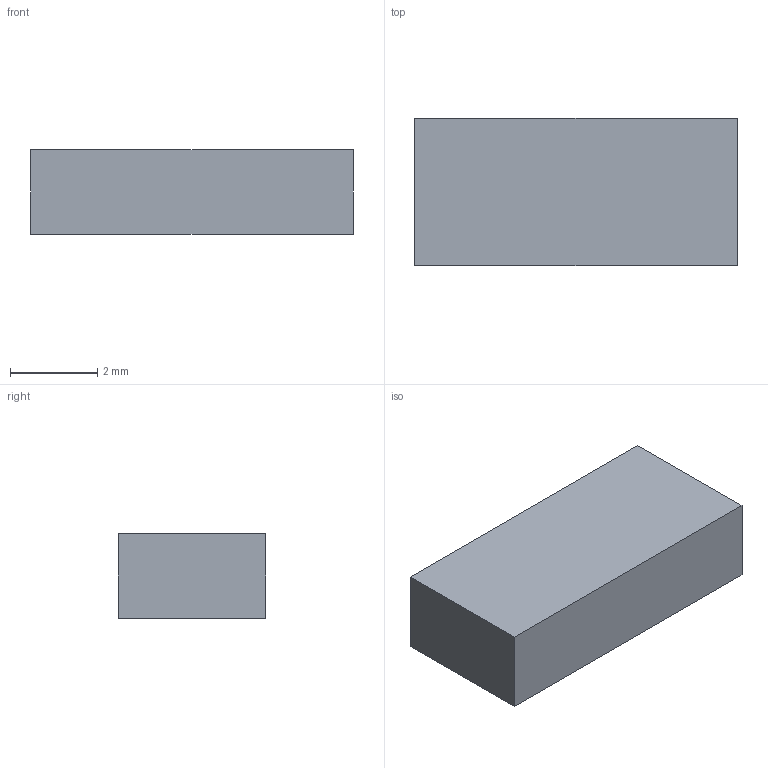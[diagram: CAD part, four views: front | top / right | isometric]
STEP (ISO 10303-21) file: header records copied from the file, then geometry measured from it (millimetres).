
FILE_DESCRIPTION(('Open CASCADE Model'),'2;1');
FILE_NAME('Open CASCADE Shape Model','2026-10-07T08:13:16',('Author'),( 'Open CASCADE'),'Open CASCADE STEP processor 7.9','Open CASCADE 7.9' ,'Unknown');
FILE_SCHEMA(('AUTOMOTIVE_DESIGN { 1 0 10303 214 1 1 1 1 }'));
Length unit declared in the file: millimetre
Products named in the file (1): Open CASCADE STEP translator 7.9 2
Bounding box: 7.4 x 3.38 x 1.95 mm (x, y, z)
Volume: 48.8 mm3; surface area: 92.1 mm2
Topology: 1 solids, 1 shells, 6 faces, 12 edges, 8 vertices
Faces by surface type: plane 6
Entity records: 322 total; most frequent: CARTESIAN_POINT 51, DIRECTION 50, LINE 36, VECTOR 36, ORIENTED_EDGE 24, PCURVE 24, DEFINITIONAL_REPRESENTATION 24, EDGE_CURVE 12
